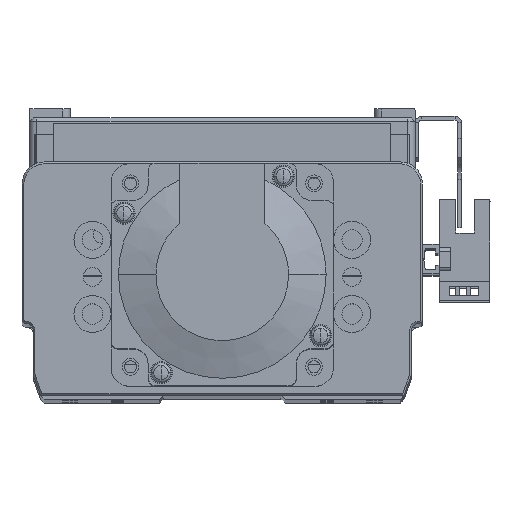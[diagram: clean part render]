
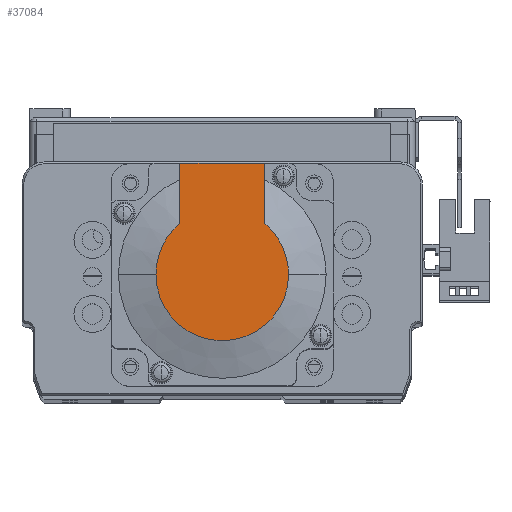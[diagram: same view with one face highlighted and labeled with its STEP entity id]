
A CAD part, top view. The second image highlights one B-rep face of the part: STEP entity #37084.
In plain terms, the highlighted planar face has unit normal (0, 0, 1) as drawn and (-1, 0, 0) by its records, which use the part's own axes.
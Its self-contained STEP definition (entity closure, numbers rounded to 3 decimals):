
#10698 = AXIS2_PLACEMENT_3D ( 'NONE', #12632, #12626, #12592 ) ;
#11464 = AXIS2_PLACEMENT_3D ( 'NONE', #21167, #21169, #21209 ) ;
#11495 = AXIS2_PLACEMENT_3D ( 'NONE', #21274, #21270, #21278 ) ;
#11573 = AXIS2_PLACEMENT_3D ( 'NONE', #23466, #23479, #23474 ) ;
#12592 = DIRECTION ( 'NONE',  ( 0., 0., 1. ) ) ;
#12626 = DIRECTION ( 'NONE',  ( -1., 0., 0. ) ) ;
#12631 = PLANE ( 'NONE',  #10698 ) ;
#12632 = CARTESIAN_POINT ( 'NONE',  ( -99., -8.941, 0. ) ) ;
#13404 = FACE_OUTER_BOUND ( 'NONE', #15180, .T. ) ;
#15180 = EDGE_LOOP ( 'NONE', ( #51920, #51895, #51916, #51906, #51838, #51907 ) ) ;
#21167 = CARTESIAN_POINT ( 'NONE',  ( -99., 0., 0. ) ) ;
#21169 = DIRECTION ( 'NONE',  ( -1., 0., 0. ) ) ;
#21209 = DIRECTION ( 'NONE',  ( 0., 0., -1. ) ) ;
#21270 = DIRECTION ( 'NONE',  ( -1., 0., 0. ) ) ;
#21274 = CARTESIAN_POINT ( 'NONE',  ( -99., 0., 0. ) ) ;
#21278 = DIRECTION ( 'NONE',  ( 0., 0., -1. ) ) ;
#22061 = CIRCLE ( 'NONE', #11464, 17.881 ) ;
#22117 = CIRCLE ( 'NONE', #11495, 17.881 ) ;
#22559 = CIRCLE ( 'NONE', #11573, 17.881 ) ;
#22640 = LINE ( 'NONE', #23654, #22697 ) ;
#22644 = VECTOR ( 'NONE', #23681, 1000. ) ;
#22694 = LINE ( 'NONE', #23664, #22644 ) ;
#22697 = VECTOR ( 'NONE', #23665, 1000. ) ;
#22728 = LINE ( 'NONE', #23737, #22734 ) ;
#22734 = VECTOR ( 'NONE', #23765, 1000. ) ;
#23466 = CARTESIAN_POINT ( 'NONE',  ( -99., 0., 0. ) ) ;
#23474 = DIRECTION ( 'NONE',  ( 0., 0., -1. ) ) ;
#23479 = DIRECTION ( 'NONE',  ( -1., 0., 0. ) ) ;
#23654 = CARTESIAN_POINT ( 'NONE',  ( -99., -8.941, -11.45 ) ) ;
#23664 = CARTESIAN_POINT ( 'NONE',  ( -99., 30., 25. ) ) ;
#23665 = DIRECTION ( 'NONE',  ( 0., -1., 0. ) ) ;
#23681 = DIRECTION ( 'NONE',  ( 0., 0., 1. ) ) ;
#23737 = CARTESIAN_POINT ( 'NONE',  ( -99., 0., 11.45 ) ) ;
#23765 = DIRECTION ( 'NONE',  ( 0., -1., 0. ) ) ;
#26427 = CARTESIAN_POINT ( 'NONE',  ( -99., 13.735, 11.45 ) ) ;
#26475 = CARTESIAN_POINT ( 'NONE',  ( -99., 0., -17.881 ) ) ;
#26523 = CARTESIAN_POINT ( 'NONE',  ( -99., 0., 17.881 ) ) ;
#26659 = CARTESIAN_POINT ( 'NONE',  ( -99., 30., 11.45 ) ) ;
#26667 = CARTESIAN_POINT ( 'NONE',  ( -99., 13.735, -11.45 ) ) ;
#26737 = CARTESIAN_POINT ( 'NONE',  ( -99., 30., -11.45 ) ) ;
#37084 = ADVANCED_FACE ( 'NONE', ( #13404 ), #12631, .T. ) ;
#47405 = EDGE_CURVE ( 'NONE', #49464, #49382, #22061, .T. ) ;
#47447 = EDGE_CURVE ( 'NONE', #49389, #49464, #22117, .T. ) ;
#47733 = EDGE_CURVE ( 'NONE', #49602, #49389, #22559, .T. ) ;
#47819 = EDGE_CURVE ( 'NONE', #49630, #49614, #22694, .T. ) ;
#47827 = EDGE_CURVE ( 'NONE', #49630, #49602, #22640, .T. ) ;
#47858 = EDGE_CURVE ( 'NONE', #49614, #49382, #22728, .T. ) ;
#49382 = VERTEX_POINT ( 'NONE', #26427 ) ;
#49389 = VERTEX_POINT ( 'NONE', #26475 ) ;
#49464 = VERTEX_POINT ( 'NONE', #26523 ) ;
#49602 = VERTEX_POINT ( 'NONE', #26667 ) ;
#49614 = VERTEX_POINT ( 'NONE', #26659 ) ;
#49630 = VERTEX_POINT ( 'NONE', #26737 ) ;
#51838 = ORIENTED_EDGE ( 'NONE', *, *, #47858, .F. ) ;
#51895 = ORIENTED_EDGE ( 'NONE', *, *, #47733, .T. ) ;
#51906 = ORIENTED_EDGE ( 'NONE', *, *, #47405, .T. ) ;
#51907 = ORIENTED_EDGE ( 'NONE', *, *, #47819, .F. ) ;
#51916 = ORIENTED_EDGE ( 'NONE', *, *, #47447, .T. ) ;
#51920 = ORIENTED_EDGE ( 'NONE', *, *, #47827, .T. ) ;
